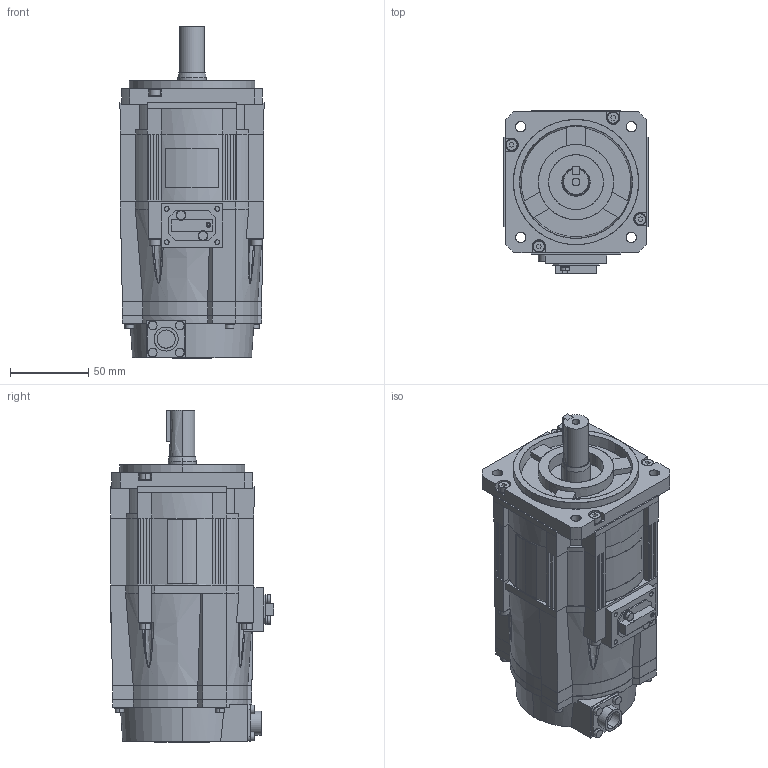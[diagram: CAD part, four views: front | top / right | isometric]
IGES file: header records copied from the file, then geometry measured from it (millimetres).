
Start section: SolidWorks IGES file using analytic representation for surfaces
Global section: file name: D:\YASKAWA\sgm7g_05__a6c.IGS; native system: SolidWorks 2006 by SolidWorks Corporation; preprocessor: SolidWorks 2006 by SolidWorks Corporation; author: yamanouchi; date: 140507.140654; units: millimetre
Bounding box: 92 x 104.5 x 212.1 mm (x, y, z)
Surface area: 98018 mm2 (no closed solid volume)
Topology: 0 solids, 0 shells, 643 faces, 7794 edges, 7794 vertices
Faces by surface type: bspline 447, revolution 196
